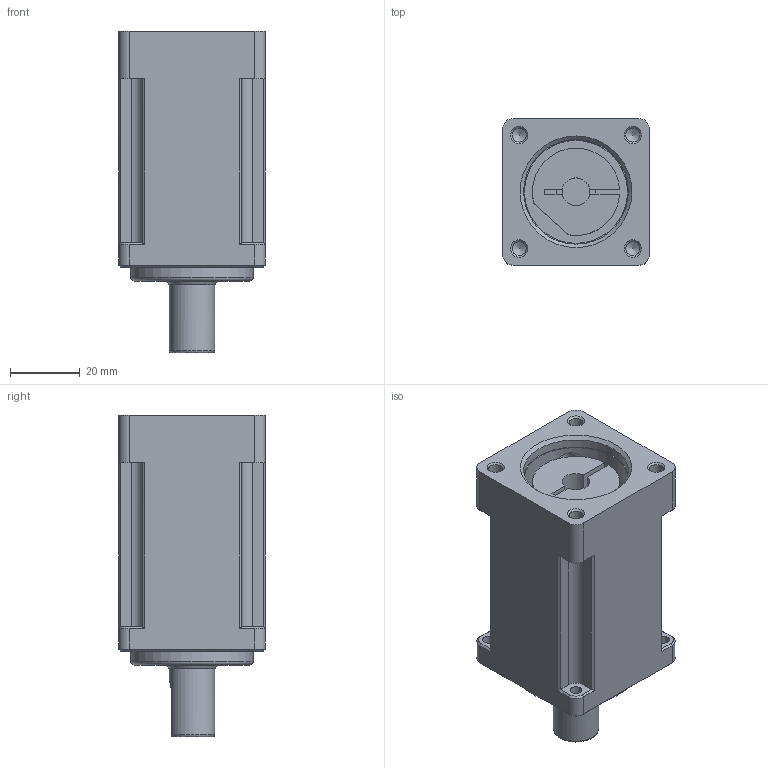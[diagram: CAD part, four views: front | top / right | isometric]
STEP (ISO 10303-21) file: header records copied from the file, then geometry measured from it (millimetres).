
FILE_DESCRIPTION((''),'2;1');
FILE_NAME('D:\유성\유성\도면\3D\2. 홈페이지용 3D 도면 (ipt)\외부도\SPI042 1단\SPI(H)042 SERIES (1 STAGE-KA TYPE).stp','2014-05-08T13:08:34',('nagyu'),(''),'Autodesk Inventor 2013','Autodesk Inventor 2013','');
FILE_SCHEMA(('AUTOMOTIVE_DESIGN { 1 0 10303 214 1 1 1 1 }'));
Length unit declared in the file: millimetre
Products named in the file (1): SPI(H)042 SERIES (1 STAGE-KA TYPE)_Shrinkwrap_1
Bounding box: 42 x 42 x 92 mm (x, y, z)
Volume: 108978.7 mm3; surface area: 20106.1 mm2
Topology: 1 solids, 1 shells, 124 faces, 322 edges, 205 vertices
Faces by surface type: plane 62, cylinder 40, cone 20, torus 2
Full cylindrical faces by diameter (mm): 3.4 x4, 4 x5, 4.3 x1, 6 x1, 8 x1, 11 x1, 13 x1, 29.5 x1, 30 x1, 35 x1
Entity records: 3617 total; most frequent: CARTESIAN_POINT 667, DIRECTION 629, ORIENTED_EDGE 556, EDGE_CURVE 278, AXIS2_PLACEMENT_3D 231, VERTEX_POINT 191, EDGE_LOOP 171, VECTOR 167
